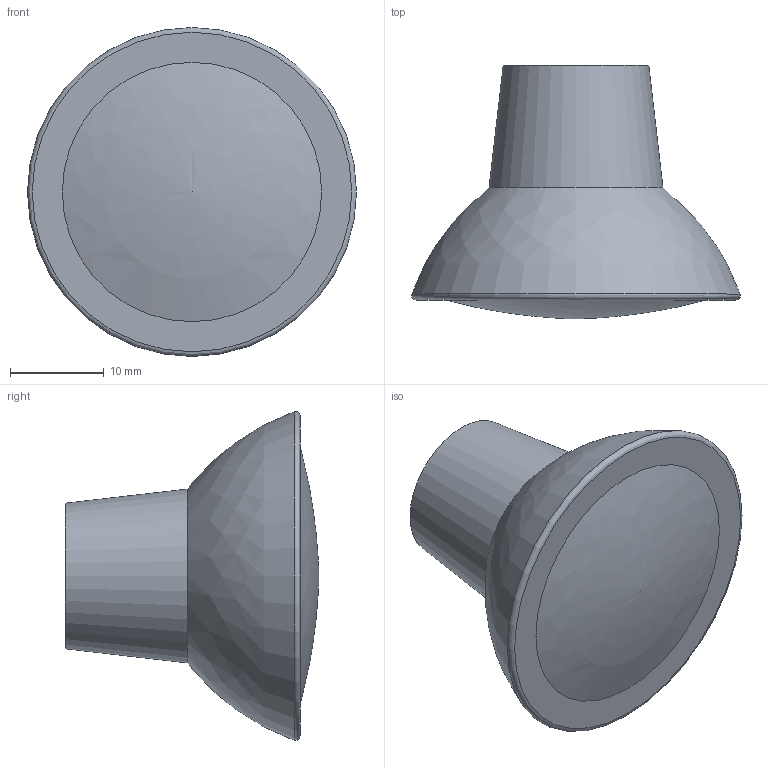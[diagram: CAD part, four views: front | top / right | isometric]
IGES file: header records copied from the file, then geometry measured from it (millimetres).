
Start section: Data from Parasolid IGES Translator 15.0.47, Copyright(c) 2006 Siemens P LM Software. All Rights Reserved.
Global section: file name: 9112599.igs; native system:  By UGS Corp.; preprocessor: XPlus GENERIC/IGES 3.0; author: Noname; organization: Noname; date: 20140122.100635; units: millimetre
Bounding box: 35 x 27 x 35 mm (x, y, z)
Surface area: 3275.1 mm2 (no closed solid volume)
Topology: 0 solids, 0 shells, 8 faces, 27 edges, 20 vertices
Faces by surface type: revolution 5, extrusion 3
